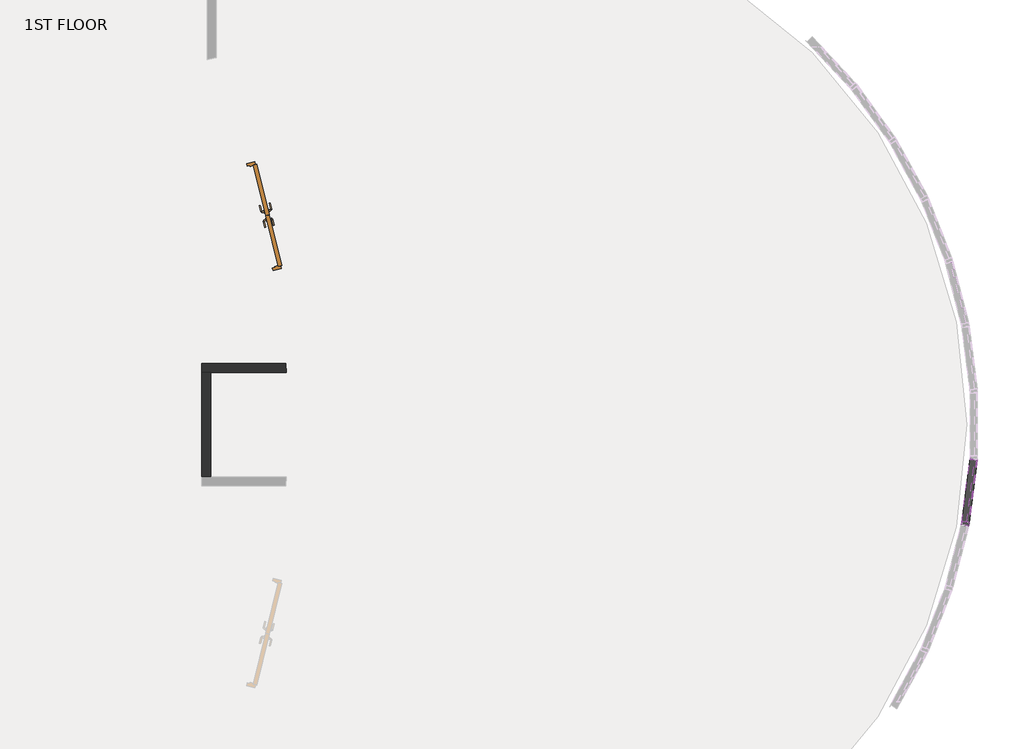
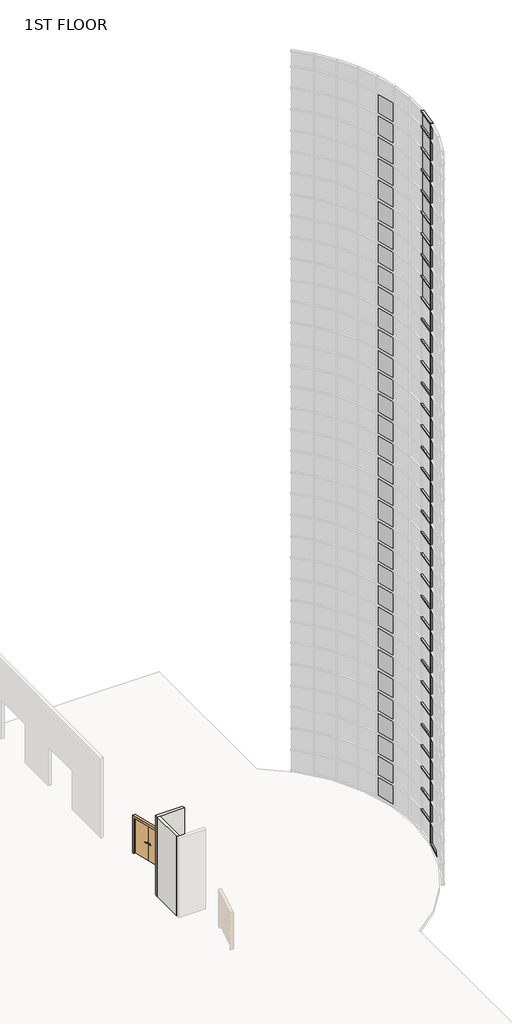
# One storey, part 9 of 17: 69 members, 42 plates, 2 walls, 1 door.
"""IFC4 building model written with IfcOpenShell, lengths in millimetres."""

from ifc_helpers import new_model, si_unit, frame, origin, place, context, project, spatial, polyline, circle_curve, outline, extrude, transform, mapped, element, save
from ifc_brep_helpers import plane_surface, cylinder_surface, advanced_brep
from components import door_2f250f70, member_56cb0dcd, member_0c249660, member_2b49869a, member_410c6227, system_panel_glazed_ce2914f7, system_panel_glazed_e049e42f, system_panel_glazed_5ae89cf9

model = new_model("IFC4")

# Units and contexts
model_context = context("Model", 3, world=origin())
ifc_project = project(units=[si_unit("LENGTHUNIT", "METRE", prefix="MILLI")], contexts=[model_context])

# Site, building, storey
site = spatial("IfcSite", under=ifc_project)
building = spatial("IfcBuilding", under=site)
storey = spatial("IfcBuildingStorey", under=building, Name="1ST FLOOR", Elevation=4572.0)

# Door
placement = place(None, origin())
door_shape = door_2f250f70(model_context)
element("IfcDoor", 1, ObjectType="Door-Passage-Double-Flush : 72\" x 82\"", at=placement, inside=storey, context=model_context, shape_type="MappedRepresentation", body=[
    mapped(door_shape, transform((35885.2621514, 20561.4429091, 4572.0), x_axis=(0.23975975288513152, -0.9708322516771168, 0.0), y_axis=(0.9708322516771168, 0.23975975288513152, 0.0), z_axis=(0.0, 0.0, 1.0))),
])

# Members
member_shape = member_56cb0dcd(model_context)
element("IfcMember", 2, ObjectType="Rectangular Mullion : 2.5\" x 5\" rectangular", at=placement, inside=storey, context=model_context, shape_type="MappedRepresentation", body=[
    mapped(member_shape, transform((48114.9355412, 15218.1342011, 45720.0), x_axis=(0.0, 0.0, 1.0), y_axis=(-0.9922024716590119, 0.12463649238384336, 0.0), z_axis=(-0.12463649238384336, -0.9922024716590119, 0.0))),
])
element("IfcMember", 3, ObjectType="Rectangular Mullion : 2.5\" x 5\" rectangular", at=placement, inside=storey, context=model_context, shape_type="MappedRepresentation", body=[
    mapped(member_shape, transform((48103.1256282, 15155.8681978, 4572.0), x_axis=(0.0, 0.0, -1.0), y_axis=(-0.9689314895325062, 0.24732927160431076, 0.0), z_axis=(0.24732927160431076, 0.9689314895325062, 0.0))),
])
member_2_shape = member_0c249660(model_context)
element("IfcMember", 4, ObjectType="Rectangular Mullion : 2.5\" x 5\" rectangular", at=placement, inside=storey, context=model_context, shape_type="MappedRepresentation", body=[
    mapped(member_2_shape, transform((48114.9355412, 15218.1342011, 5791.2), x_axis=(0.0, 0.0, 1.0), y_axis=(-0.9922024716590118, 0.12463649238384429, 0.0), z_axis=(-0.12463649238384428, -0.9922024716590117, 0.0))),
])
element("IfcMember", 5, ObjectType="Rectangular Mullion : 2.5\" x 5\" rectangular", at=placement, inside=storey, context=model_context, shape_type="MappedRepresentation", body=[
    mapped(member_2_shape, transform((48114.9355412, 15218.1342011, 7010.4), x_axis=(0.0, 0.0, 1.0), y_axis=(-0.9922024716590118, 0.12463649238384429, 0.0), z_axis=(-0.12463649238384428, -0.9922024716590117, 0.0))),
])
element("IfcMember", 6, ObjectType="Rectangular Mullion : 2.5\" x 5\" rectangular", at=placement, inside=storey, context=model_context, shape_type="MappedRepresentation", body=[
    mapped(member_2_shape, transform((48114.9355412, 15218.1342011, 8229.6), x_axis=(0.0, 0.0, 1.0), y_axis=(-0.9922024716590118, 0.12463649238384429, 0.0), z_axis=(-0.12463649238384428, -0.9922024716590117, 0.0))),
])
element("IfcMember", 7, ObjectType="Rectangular Mullion : 2.5\" x 5\" rectangular", at=placement, inside=storey, context=model_context, shape_type="MappedRepresentation", body=[
    mapped(member_2_shape, transform((48114.9355412, 15218.1342011, 9448.8), x_axis=(0.0, 0.0, 1.0), y_axis=(-0.9922024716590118, 0.12463649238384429, 0.0), z_axis=(-0.12463649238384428, -0.9922024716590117, 0.0))),
])
element("IfcMember", 8, ObjectType="Rectangular Mullion : 2.5\" x 5\" rectangular", at=placement, inside=storey, context=model_context, shape_type="MappedRepresentation", body=[
    mapped(member_2_shape, transform((48114.9355412, 15218.1342011, 10668.0), x_axis=(0.0, 0.0, 1.0), y_axis=(-0.9922024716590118, 0.12463649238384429, 0.0), z_axis=(-0.12463649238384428, -0.9922024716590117, 0.0))),
])
element("IfcMember", 9, ObjectType="Rectangular Mullion : 2.5\" x 5\" rectangular", at=placement, inside=storey, context=model_context, shape_type="MappedRepresentation", body=[
    mapped(member_2_shape, transform((48114.9355412, 15218.1342011, 11887.2), x_axis=(0.0, 0.0, 1.0), y_axis=(-0.9922024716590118, 0.12463649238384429, 0.0), z_axis=(-0.12463649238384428, -0.9922024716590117, 0.0))),
])
element("IfcMember", 10, ObjectType="Rectangular Mullion : 2.5\" x 5\" rectangular", at=placement, inside=storey, context=model_context, shape_type="MappedRepresentation", body=[
    mapped(member_2_shape, transform((48114.9355412, 15218.1342011, 13106.4), x_axis=(0.0, 0.0, 1.0), y_axis=(-0.9922024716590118, 0.12463649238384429, 0.0), z_axis=(-0.12463649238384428, -0.9922024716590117, 0.0))),
])
element("IfcMember", 11, ObjectType="Rectangular Mullion : 2.5\" x 5\" rectangular", at=placement, inside=storey, context=model_context, shape_type="MappedRepresentation", body=[
    mapped(member_2_shape, transform((48114.9355412, 15218.1342011, 14325.6), x_axis=(0.0, 0.0, 1.0), y_axis=(-0.9922024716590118, 0.12463649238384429, 0.0), z_axis=(-0.12463649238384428, -0.9922024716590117, 0.0))),
])
element("IfcMember", 12, ObjectType="Rectangular Mullion : 2.5\" x 5\" rectangular", at=placement, inside=storey, context=model_context, shape_type="MappedRepresentation", body=[
    mapped(member_2_shape, transform((48114.9355412, 15218.1342011, 15544.8), x_axis=(0.0, 0.0, 1.0), y_axis=(-0.9922024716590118, 0.12463649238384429, 0.0), z_axis=(-0.12463649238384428, -0.9922024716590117, 0.0))),
])
element("IfcMember", 13, ObjectType="Rectangular Mullion : 2.5\" x 5\" rectangular", at=placement, inside=storey, context=model_context, shape_type="MappedRepresentation", body=[
    mapped(member_2_shape, transform((48114.9355412, 15218.1342011, 16764.0), x_axis=(0.0, 0.0, 1.0), y_axis=(-0.9922024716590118, 0.12463649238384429, 0.0), z_axis=(-0.12463649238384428, -0.9922024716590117, 0.0))),
])
element("IfcMember", 14, ObjectType="Rectangular Mullion : 2.5\" x 5\" rectangular", at=placement, inside=storey, context=model_context, shape_type="MappedRepresentation", body=[
    mapped(member_2_shape, transform((48114.9355412, 15218.1342011, 17983.2), x_axis=(0.0, 0.0, 1.0), y_axis=(-0.9922024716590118, 0.12463649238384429, 0.0), z_axis=(-0.12463649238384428, -0.9922024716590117, 0.0))),
])
element("IfcMember", 15, ObjectType="Rectangular Mullion : 2.5\" x 5\" rectangular", at=placement, inside=storey, context=model_context, shape_type="MappedRepresentation", body=[
    mapped(member_2_shape, transform((48114.9355412, 15218.1342011, 19202.4), x_axis=(0.0, 0.0, 1.0), y_axis=(-0.9922024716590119, 0.12463649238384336, 0.0), z_axis=(-0.12463649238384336, -0.9922024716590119, 0.0))),
])
element("IfcMember", 16, ObjectType="Rectangular Mullion : 2.5\" x 5\" rectangular", at=placement, inside=storey, context=model_context, shape_type="MappedRepresentation", body=[
    mapped(member_2_shape, transform((48114.9355412, 15218.1342011, 20421.6), x_axis=(0.0, 0.0, 1.0), y_axis=(-0.9922024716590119, 0.12463649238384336, 0.0), z_axis=(-0.12463649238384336, -0.9922024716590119, 0.0))),
])
element("IfcMember", 17, ObjectType="Rectangular Mullion : 2.5\" x 5\" rectangular", at=placement, inside=storey, context=model_context, shape_type="MappedRepresentation", body=[
    mapped(member_2_shape, transform((48114.9355412, 15218.1342011, 21640.8), x_axis=(0.0, 0.0, 1.0), y_axis=(-0.9922024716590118, 0.12463649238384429, 0.0), z_axis=(-0.12463649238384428, -0.9922024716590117, 0.0))),
])
element("IfcMember", 18, ObjectType="Rectangular Mullion : 2.5\" x 5\" rectangular", at=placement, inside=storey, context=model_context, shape_type="MappedRepresentation", body=[
    mapped(member_2_shape, transform((48114.9355412, 15218.1342011, 22860.0), x_axis=(0.0, 0.0, 1.0), y_axis=(-0.9922024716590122, 0.12463649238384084, 0.0), z_axis=(-0.12463649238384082, -0.9922024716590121, 0.0))),
])
element("IfcMember", 19, ObjectType="Rectangular Mullion : 2.5\" x 5\" rectangular", at=placement, inside=storey, context=model_context, shape_type="MappedRepresentation", body=[
    mapped(member_2_shape, transform((48114.9355412, 15218.1342011, 24079.2), x_axis=(0.0, 0.0, 1.0), y_axis=(-0.9922024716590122, 0.12463649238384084, 0.0), z_axis=(-0.12463649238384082, -0.9922024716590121, 0.0))),
])
element("IfcMember", 20, ObjectType="Rectangular Mullion : 2.5\" x 5\" rectangular", at=placement, inside=storey, context=model_context, shape_type="MappedRepresentation", body=[
    mapped(member_2_shape, transform((48114.9355412, 15218.1342011, 25298.4), x_axis=(0.0, 0.0, 1.0), y_axis=(-0.9922024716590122, 0.12463649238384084, 0.0), z_axis=(-0.12463649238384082, -0.9922024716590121, 0.0))),
])
element("IfcMember", 21, ObjectType="Rectangular Mullion : 2.5\" x 5\" rectangular", at=placement, inside=storey, context=model_context, shape_type="MappedRepresentation", body=[
    mapped(member_2_shape, transform((48114.9355412, 15218.1342011, 26517.6), x_axis=(0.0, 0.0, 1.0), y_axis=(-0.9922024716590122, 0.12463649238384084, 0.0), z_axis=(-0.12463649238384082, -0.9922024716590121, 0.0))),
])
element("IfcMember", 22, ObjectType="Rectangular Mullion : 2.5\" x 5\" rectangular", at=placement, inside=storey, context=model_context, shape_type="MappedRepresentation", body=[
    mapped(member_2_shape, transform((48114.9355412, 15218.1342011, 27736.8), x_axis=(0.0, 0.0, 1.0), y_axis=(-0.9922024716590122, 0.12463649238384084, 0.0), z_axis=(-0.12463649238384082, -0.9922024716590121, 0.0))),
])
element("IfcMember", 23, ObjectType="Rectangular Mullion : 2.5\" x 5\" rectangular", at=placement, inside=storey, context=model_context, shape_type="MappedRepresentation", body=[
    mapped(member_2_shape, transform((48114.9355412, 15218.1342011, 28956.0), x_axis=(0.0, 0.0, 1.0), y_axis=(-0.9922024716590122, 0.12463649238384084, 0.0), z_axis=(-0.12463649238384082, -0.9922024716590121, 0.0))),
])
element("IfcMember", 24, ObjectType="Rectangular Mullion : 2.5\" x 5\" rectangular", at=placement, inside=storey, context=model_context, shape_type="MappedRepresentation", body=[
    mapped(member_2_shape, transform((48114.9355412, 15218.1342011, 30175.2), x_axis=(0.0, 0.0, 1.0), y_axis=(-0.9922024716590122, 0.12463649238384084, 0.0), z_axis=(-0.12463649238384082, -0.9922024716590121, 0.0))),
])
element("IfcMember", 25, ObjectType="Rectangular Mullion : 2.5\" x 5\" rectangular", at=placement, inside=storey, context=model_context, shape_type="MappedRepresentation", body=[
    mapped(member_2_shape, transform((48114.9355412, 15218.1342011, 31394.4), x_axis=(0.0, 0.0, 1.0), y_axis=(-0.9922024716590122, 0.12463649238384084, 0.0), z_axis=(-0.12463649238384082, -0.9922024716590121, 0.0))),
])
element("IfcMember", 26, ObjectType="Rectangular Mullion : 2.5\" x 5\" rectangular", at=placement, inside=storey, context=model_context, shape_type="MappedRepresentation", body=[
    mapped(member_2_shape, transform((48114.9355412, 15218.1342011, 32613.6), x_axis=(0.0, 0.0, 1.0), y_axis=(-0.9922024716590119, 0.12463649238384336, 0.0), z_axis=(-0.12463649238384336, -0.9922024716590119, 0.0))),
])
element("IfcMember", 27, ObjectType="Rectangular Mullion : 2.5\" x 5\" rectangular", at=placement, inside=storey, context=model_context, shape_type="MappedRepresentation", body=[
    mapped(member_2_shape, transform((48114.9355412, 15218.1342011, 33832.8), x_axis=(0.0, 0.0, 1.0), y_axis=(-0.9922024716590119, 0.12463649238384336, 0.0), z_axis=(-0.12463649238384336, -0.9922024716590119, 0.0))),
])
element("IfcMember", 28, ObjectType="Rectangular Mullion : 2.5\" x 5\" rectangular", at=placement, inside=storey, context=model_context, shape_type="MappedRepresentation", body=[
    mapped(member_2_shape, transform((48114.9355412, 15218.1342011, 35052.0), x_axis=(0.0, 0.0, 1.0), y_axis=(-0.9922024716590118, 0.12463649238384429, 0.0), z_axis=(-0.12463649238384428, -0.9922024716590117, 0.0))),
])
element("IfcMember", 29, ObjectType="Rectangular Mullion : 2.5\" x 5\" rectangular", at=placement, inside=storey, context=model_context, shape_type="MappedRepresentation", body=[
    mapped(member_2_shape, transform((48114.9355412, 15218.1342011, 36271.2), x_axis=(0.0, 0.0, 1.0), y_axis=(-0.9922024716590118, 0.12463649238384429, 0.0), z_axis=(-0.12463649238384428, -0.9922024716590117, 0.0))),
])
element("IfcMember", 30, ObjectType="Rectangular Mullion : 2.5\" x 5\" rectangular", at=placement, inside=storey, context=model_context, shape_type="MappedRepresentation", body=[
    mapped(member_2_shape, transform((48114.9355412, 15218.1342011, 37490.4), x_axis=(0.0, 0.0, 1.0), y_axis=(-0.9922024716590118, 0.12463649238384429, 0.0), z_axis=(-0.12463649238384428, -0.9922024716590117, 0.0))),
])
element("IfcMember", 31, ObjectType="Rectangular Mullion : 2.5\" x 5\" rectangular", at=placement, inside=storey, context=model_context, shape_type="MappedRepresentation", body=[
    mapped(member_2_shape, transform((48114.9355412, 15218.1342011, 38709.6), x_axis=(0.0, 0.0, 1.0), y_axis=(-0.9922024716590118, 0.12463649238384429, 0.0), z_axis=(-0.12463649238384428, -0.9922024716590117, 0.0))),
])
element("IfcMember", 32, ObjectType="Rectangular Mullion : 2.5\" x 5\" rectangular", at=placement, inside=storey, context=model_context, shape_type="MappedRepresentation", body=[
    mapped(member_2_shape, transform((48114.9355412, 15218.1342011, 39928.8), x_axis=(0.0, 0.0, 1.0), y_axis=(-0.9922024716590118, 0.12463649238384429, 0.0), z_axis=(-0.12463649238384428, -0.9922024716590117, 0.0))),
])
element("IfcMember", 33, ObjectType="Rectangular Mullion : 2.5\" x 5\" rectangular", at=placement, inside=storey, context=model_context, shape_type="MappedRepresentation", body=[
    mapped(member_2_shape, transform((48114.9355412, 15218.1342011, 41148.0), x_axis=(0.0, 0.0, 1.0), y_axis=(-0.9922024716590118, 0.12463649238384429, 0.0), z_axis=(-0.12463649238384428, -0.9922024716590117, 0.0))),
])
element("IfcMember", 34, ObjectType="Rectangular Mullion : 2.5\" x 5\" rectangular", at=placement, inside=storey, context=model_context, shape_type="MappedRepresentation", body=[
    mapped(member_2_shape, transform((48114.9355412, 15218.1342011, 42367.2), x_axis=(0.0, 0.0, 1.0), y_axis=(-0.9922024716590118, 0.12463649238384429, 0.0), z_axis=(-0.12463649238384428, -0.9922024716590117, 0.0))),
])
element("IfcMember", 35, ObjectType="Rectangular Mullion : 2.5\" x 5\" rectangular", at=placement, inside=storey, context=model_context, shape_type="MappedRepresentation", body=[
    mapped(member_2_shape, transform((48114.9355412, 15218.1342011, 43586.4), x_axis=(0.0, 0.0, 1.0), y_axis=(-0.9922024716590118, 0.12463649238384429, 0.0), z_axis=(-0.12463649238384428, -0.9922024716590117, 0.0))),
])
element("IfcMember", 36, ObjectType="Rectangular Mullion : 2.5\" x 5\" rectangular", at=placement, inside=storey, context=model_context, shape_type="MappedRepresentation", body=[
    mapped(member_2_shape, transform((48114.9355412, 15218.1342011, 44805.6), x_axis=(0.0, 0.0, 1.0), y_axis=(-0.9922024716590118, 0.12463649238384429, 0.0), z_axis=(-0.12463649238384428, -0.9922024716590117, 0.0))),
])
member_3_shape = member_2b49869a(model_context)
element("IfcMember", 37, ObjectType="Rectangular Mullion : 2.5\" x 5\" rectangular", at=placement, inside=storey, context=model_context, shape_type="MappedRepresentation", body=[
    mapped(member_3_shape, transform((48110.9783326, 15186.6317726, 4572.0), x_axis=(-0.1863464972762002, -0.982484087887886, 0.0), y_axis=(-0.982484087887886, 0.1863464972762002, 0.0), z_axis=(0.0, 0.0, -1.0))),
])
element("IfcMember", 38, ObjectType="Rectangular Mullion : 2.5\" x 5\" rectangular", at=placement, inside=storey, context=model_context, shape_type="MappedRepresentation", body=[
    mapped(member_3_shape, transform((48110.9783326, 15186.6317726, 5791.2), x_axis=(-0.18634649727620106, -0.9824840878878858, 0.0), y_axis=(-0.9824840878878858, 0.18634649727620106, 0.0), z_axis=(0.0, 0.0, -1.0))),
])
element("IfcMember", 39, ObjectType="Rectangular Mullion : 2.5\" x 5\" rectangular", at=placement, inside=storey, context=model_context, shape_type="MappedRepresentation", body=[
    mapped(member_3_shape, transform((48110.9783326, 15186.6317726, 7010.4), x_axis=(-0.18634649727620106, -0.9824840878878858, 0.0), y_axis=(-0.9824840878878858, 0.18634649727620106, 0.0), z_axis=(0.0, 0.0, -1.0))),
])
element("IfcMember", 40, ObjectType="Rectangular Mullion : 2.5\" x 5\" rectangular", at=placement, inside=storey, context=model_context, shape_type="MappedRepresentation", body=[
    mapped(member_3_shape, transform((48110.9783326, 15186.6317726, 8229.6), x_axis=(-0.18634649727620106, -0.9824840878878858, 0.0), y_axis=(-0.9824840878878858, 0.18634649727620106, 0.0), z_axis=(0.0, 0.0, -1.0))),
])
element("IfcMember", 41, ObjectType="Rectangular Mullion : 2.5\" x 5\" rectangular", at=placement, inside=storey, context=model_context, shape_type="MappedRepresentation", body=[
    mapped(member_3_shape, transform((48110.9783326, 15186.6317726, 9448.8), x_axis=(-0.1863464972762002, -0.982484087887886, 0.0), y_axis=(-0.982484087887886, 0.1863464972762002, 0.0), z_axis=(0.0, 0.0, -1.0))),
])
element("IfcMember", 42, ObjectType="Rectangular Mullion : 2.5\" x 5\" rectangular", at=placement, inside=storey, context=model_context, shape_type="MappedRepresentation", body=[
    mapped(member_3_shape, transform((48110.9783326, 15186.6317726, 10668.0), x_axis=(-0.1863464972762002, -0.982484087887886, 0.0), y_axis=(-0.982484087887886, 0.1863464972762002, 0.0), z_axis=(0.0, 0.0, -1.0))),
])
element("IfcMember", 43, ObjectType="Rectangular Mullion : 2.5\" x 5\" rectangular", at=placement, inside=storey, context=model_context, shape_type="MappedRepresentation", body=[
    mapped(member_3_shape, transform((48110.9783326, 15186.6317726, 11887.2), x_axis=(-0.18634649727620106, -0.9824840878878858, 0.0), y_axis=(-0.9824840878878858, 0.18634649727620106, 0.0), z_axis=(0.0, 0.0, -1.0))),
])
element("IfcMember", 44, ObjectType="Rectangular Mullion : 2.5\" x 5\" rectangular", at=placement, inside=storey, context=model_context, shape_type="MappedRepresentation", body=[
    mapped(member_3_shape, transform((48110.9783326, 15186.6317726, 13106.4), x_axis=(-0.18634649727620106, -0.9824840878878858, 0.0), y_axis=(-0.9824840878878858, 0.18634649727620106, 0.0), z_axis=(0.0, 0.0, -1.0))),
])
element("IfcMember", 45, ObjectType="Rectangular Mullion : 2.5\" x 5\" rectangular", at=placement, inside=storey, context=model_context, shape_type="MappedRepresentation", body=[
    mapped(member_3_shape, transform((48110.9783326, 15186.6317726, 14325.6), x_axis=(-0.18634649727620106, -0.9824840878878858, 0.0), y_axis=(-0.9824840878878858, 0.18634649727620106, 0.0), z_axis=(0.0, 0.0, -1.0))),
])
element("IfcMember", 46, ObjectType="Rectangular Mullion : 2.5\" x 5\" rectangular", at=placement, inside=storey, context=model_context, shape_type="MappedRepresentation", body=[
    mapped(member_3_shape, transform((48110.9783326, 15186.6317726, 15544.8), x_axis=(-0.18634649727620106, -0.9824840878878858, 0.0), y_axis=(-0.9824840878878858, 0.18634649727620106, 0.0), z_axis=(0.0, 0.0, -1.0))),
])
element("IfcMember", 47, ObjectType="Rectangular Mullion : 2.5\" x 5\" rectangular", at=placement, inside=storey, context=model_context, shape_type="MappedRepresentation", body=[
    mapped(member_3_shape, transform((48110.9783326, 15186.6317726, 16764.0), x_axis=(-0.18634649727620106, -0.9824840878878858, 0.0), y_axis=(-0.9824840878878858, 0.18634649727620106, 0.0), z_axis=(0.0, 0.0, -1.0))),
])
element("IfcMember", 48, ObjectType="Rectangular Mullion : 2.5\" x 5\" rectangular", at=placement, inside=storey, context=model_context, shape_type="MappedRepresentation", body=[
    mapped(member_3_shape, transform((48110.9783326, 15186.6317726, 17983.2), x_axis=(-0.18634649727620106, -0.9824840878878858, 0.0), y_axis=(-0.9824840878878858, 0.18634649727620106, 0.0), z_axis=(0.0, 0.0, -1.0))),
])
element("IfcMember", 49, ObjectType="Rectangular Mullion : 2.5\" x 5\" rectangular", at=placement, inside=storey, context=model_context, shape_type="MappedRepresentation", body=[
    mapped(member_3_shape, transform((48110.9783326, 15186.6317726, 19202.4), x_axis=(-0.1863464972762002, -0.982484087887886, 0.0), y_axis=(-0.982484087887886, 0.1863464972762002, 0.0), z_axis=(0.0, 0.0, -1.0))),
])
element("IfcMember", 50, ObjectType="Rectangular Mullion : 2.5\" x 5\" rectangular", at=placement, inside=storey, context=model_context, shape_type="MappedRepresentation", body=[
    mapped(member_3_shape, transform((48110.9783326, 15186.6317726, 20421.6), x_axis=(-0.1863464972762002, -0.982484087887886, 0.0), y_axis=(-0.982484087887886, 0.1863464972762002, 0.0), z_axis=(0.0, 0.0, -1.0))),
])
element("IfcMember", 51, ObjectType="Rectangular Mullion : 2.5\" x 5\" rectangular", at=placement, inside=storey, context=model_context, shape_type="MappedRepresentation", body=[
    mapped(member_3_shape, transform((48110.9783326, 15186.6317726, 21640.8), x_axis=(-0.18634649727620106, -0.9824840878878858, 0.0), y_axis=(-0.9824840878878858, 0.18634649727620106, 0.0), z_axis=(0.0, 0.0, -1.0))),
])
element("IfcMember", 52, ObjectType="Rectangular Mullion : 2.5\" x 5\" rectangular", at=placement, inside=storey, context=model_context, shape_type="MappedRepresentation", body=[
    mapped(member_3_shape, transform((48110.9783326, 15186.6317726, 22860.0), x_axis=(-0.18634649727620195, -0.9824840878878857, 0.0), y_axis=(-0.9824840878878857, 0.18634649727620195, 0.0), z_axis=(0.0, 0.0, -1.0))),
])
element("IfcMember", 53, ObjectType="Rectangular Mullion : 2.5\" x 5\" rectangular", at=placement, inside=storey, context=model_context, shape_type="MappedRepresentation", body=[
    mapped(member_3_shape, transform((48110.9783326, 15186.6317726, 24079.2), x_axis=(-0.18634649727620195, -0.9824840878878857, 0.0), y_axis=(-0.9824840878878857, 0.18634649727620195, 0.0), z_axis=(0.0, 0.0, -1.0))),
])
element("IfcMember", 54, ObjectType="Rectangular Mullion : 2.5\" x 5\" rectangular", at=placement, inside=storey, context=model_context, shape_type="MappedRepresentation", body=[
    mapped(member_3_shape, transform((48110.9783326, 15186.6317726, 25298.4), x_axis=(-0.18634649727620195, -0.9824840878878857, 0.0), y_axis=(-0.9824840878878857, 0.18634649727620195, 0.0), z_axis=(0.0, 0.0, -1.0))),
])
element("IfcMember", 55, ObjectType="Rectangular Mullion : 2.5\" x 5\" rectangular", at=placement, inside=storey, context=model_context, shape_type="MappedRepresentation", body=[
    mapped(member_3_shape, transform((48110.9783326, 15186.6317726, 26517.6), x_axis=(-0.18634649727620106, -0.9824840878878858, 0.0), y_axis=(-0.9824840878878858, 0.18634649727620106, 0.0), z_axis=(0.0, 0.0, -1.0))),
])
element("IfcMember", 56, ObjectType="Rectangular Mullion : 2.5\" x 5\" rectangular", at=placement, inside=storey, context=model_context, shape_type="MappedRepresentation", body=[
    mapped(member_3_shape, transform((48110.9783326, 15186.6317726, 27736.8), x_axis=(-0.18634649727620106, -0.9824840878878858, 0.0), y_axis=(-0.9824840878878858, 0.18634649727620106, 0.0), z_axis=(0.0, 0.0, -1.0))),
])
element("IfcMember", 57, ObjectType="Rectangular Mullion : 2.5\" x 5\" rectangular", at=placement, inside=storey, context=model_context, shape_type="MappedRepresentation", body=[
    mapped(member_3_shape, transform((48110.9783326, 15186.6317726, 28956.0), x_axis=(-0.18634649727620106, -0.9824840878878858, 0.0), y_axis=(-0.9824840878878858, 0.18634649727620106, 0.0), z_axis=(0.0, 0.0, -1.0))),
])
element("IfcMember", 58, ObjectType="Rectangular Mullion : 2.5\" x 5\" rectangular", at=placement, inside=storey, context=model_context, shape_type="MappedRepresentation", body=[
    mapped(member_3_shape, transform((48110.9783326, 15186.6317726, 30175.2), x_axis=(-0.18634649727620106, -0.9824840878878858, 0.0), y_axis=(-0.9824840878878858, 0.18634649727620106, 0.0), z_axis=(0.0, 0.0, -1.0))),
])
element("IfcMember", 59, ObjectType="Rectangular Mullion : 2.5\" x 5\" rectangular", at=placement, inside=storey, context=model_context, shape_type="MappedRepresentation", body=[
    mapped(member_3_shape, transform((48110.9783326, 15186.6317726, 31394.4), x_axis=(-0.18634649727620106, -0.9824840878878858, 0.0), y_axis=(-0.9824840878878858, 0.18634649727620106, 0.0), z_axis=(0.0, 0.0, -1.0))),
])
element("IfcMember", 60, ObjectType="Rectangular Mullion : 2.5\" x 5\" rectangular", at=placement, inside=storey, context=model_context, shape_type="MappedRepresentation", body=[
    mapped(member_3_shape, transform((48110.9783326, 15186.6317726, 32613.6), x_axis=(-0.1863464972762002, -0.982484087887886, 0.0), y_axis=(-0.982484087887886, 0.1863464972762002, 0.0), z_axis=(0.0, 0.0, -1.0))),
])
element("IfcMember", 61, ObjectType="Rectangular Mullion : 2.5\" x 5\" rectangular", at=placement, inside=storey, context=model_context, shape_type="MappedRepresentation", body=[
    mapped(member_3_shape, transform((48110.9783326, 15186.6317726, 33832.8), x_axis=(-0.1863464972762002, -0.982484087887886, 0.0), y_axis=(-0.982484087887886, 0.1863464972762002, 0.0), z_axis=(0.0, 0.0, -1.0))),
])
element("IfcMember", 62, ObjectType="Rectangular Mullion : 2.5\" x 5\" rectangular", at=placement, inside=storey, context=model_context, shape_type="MappedRepresentation", body=[
    mapped(member_3_shape, transform((48110.9783326, 15186.6317726, 35052.0), x_axis=(-0.1863464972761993, -0.9824840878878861, 0.0), y_axis=(-0.9824840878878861, 0.1863464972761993, 0.0), z_axis=(0.0, 0.0, -1.0))),
])
element("IfcMember", 63, ObjectType="Rectangular Mullion : 2.5\" x 5\" rectangular", at=placement, inside=storey, context=model_context, shape_type="MappedRepresentation", body=[
    mapped(member_3_shape, transform((48110.9783326, 15186.6317726, 36271.2), x_axis=(-0.1863464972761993, -0.9824840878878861, 0.0), y_axis=(-0.9824840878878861, 0.1863464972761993, 0.0), z_axis=(0.0, 0.0, -1.0))),
])
element("IfcMember", 64, ObjectType="Rectangular Mullion : 2.5\" x 5\" rectangular", at=placement, inside=storey, context=model_context, shape_type="MappedRepresentation", body=[
    mapped(member_3_shape, transform((48110.9783326, 15186.6317726, 37490.4), x_axis=(-0.1863464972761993, -0.9824840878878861, 0.0), y_axis=(-0.9824840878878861, 0.1863464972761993, 0.0), z_axis=(0.0, 0.0, -1.0))),
])
element("IfcMember", 65, ObjectType="Rectangular Mullion : 2.5\" x 5\" rectangular", at=placement, inside=storey, context=model_context, shape_type="MappedRepresentation", body=[
    mapped(member_3_shape, transform((48110.9783326, 15186.6317726, 38709.6), x_axis=(-0.1863464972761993, -0.9824840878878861, 0.0), y_axis=(-0.9824840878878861, 0.1863464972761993, 0.0), z_axis=(0.0, 0.0, -1.0))),
])
element("IfcMember", 66, ObjectType="Rectangular Mullion : 2.5\" x 5\" rectangular", at=placement, inside=storey, context=model_context, shape_type="MappedRepresentation", body=[
    mapped(member_3_shape, transform((48110.9783326, 15186.6317726, 39928.8), x_axis=(-0.1863464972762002, -0.982484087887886, 0.0), y_axis=(-0.982484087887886, 0.1863464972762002, 0.0), z_axis=(0.0, 0.0, -1.0))),
])
element("IfcMember", 67, ObjectType="Rectangular Mullion : 2.5\" x 5\" rectangular", at=placement, inside=storey, context=model_context, shape_type="MappedRepresentation", body=[
    mapped(member_3_shape, transform((48110.9783326, 15186.6317726, 41148.0), x_axis=(-0.1863464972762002, -0.982484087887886, 0.0), y_axis=(-0.982484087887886, 0.1863464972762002, 0.0), z_axis=(0.0, 0.0, -1.0))),
])
element("IfcMember", 68, ObjectType="Rectangular Mullion : 2.5\" x 5\" rectangular", at=placement, inside=storey, context=model_context, shape_type="MappedRepresentation", body=[
    mapped(member_3_shape, transform((48110.9783326, 15186.6317726, 42367.2), x_axis=(-0.1863464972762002, -0.982484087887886, 0.0), y_axis=(-0.982484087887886, 0.1863464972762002, 0.0), z_axis=(0.0, 0.0, -1.0))),
])
element("IfcMember", 69, ObjectType="Rectangular Mullion : 2.5\" x 5\" rectangular", at=placement, inside=storey, context=model_context, shape_type="MappedRepresentation", body=[
    mapped(member_3_shape, transform((48110.9783326, 15186.6317726, 43586.4), x_axis=(-0.1863464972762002, -0.982484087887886, 0.0), y_axis=(-0.982484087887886, 0.1863464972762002, 0.0), z_axis=(0.0, 0.0, -1.0))),
])
member_4_shape = member_410c6227(model_context)
element("IfcMember", 70, ObjectType="Rectangular Mullion : 2.5\" x 5\" rectangular", at=placement, inside=storey, context=model_context, shape_type="MappedRepresentation", body=[
    mapped(member_4_shape, transform((48110.9783326, 15186.6317726, 44805.6), x_axis=(-0.1863464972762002, -0.982484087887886, 0.0), y_axis=(-0.982484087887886, 0.1863464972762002, 0.0), z_axis=(0.0, 0.0, -1.0))),
])

# Plates
system_panel_glazed_shape = system_panel_glazed_ce2914f7(model_context)
element("IfcPlate", 71, ObjectType="System Panel : Glazed", at=placement, inside=storey, context=model_context, shape_type="MappedRepresentation", body=[
    mapped(system_panel_glazed_shape, transform((47967.3625719, 19215.1440421, 4635.5), x_axis=(0.24732927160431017, -0.9689314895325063, 0.0), y_axis=(0.9689314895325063, 0.24732927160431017, 0.0), z_axis=(0.0, 0.0, 1.0))),
])
system_panel_glazed_2_shape = system_panel_glazed_e049e42f(model_context)
element("IfcPlate", 72, ObjectType="System Panel : Glazed", at=placement, inside=storey, context=model_context, shape_type="MappedRepresentation", body=[
    mapped(system_panel_glazed_2_shape, transform((47967.3625719, 19215.1440421, 5822.95), x_axis=(0.24732927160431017, -0.9689314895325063, 0.0), y_axis=(0.9689314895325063, 0.24732927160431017, 0.0), z_axis=(0.0, 0.0, 1.0))),
])
element("IfcPlate", 73, ObjectType="System Panel : Glazed", at=placement, inside=storey, context=model_context, shape_type="MappedRepresentation", body=[
    mapped(system_panel_glazed_2_shape, transform((47967.3625719, 19215.1440421, 7042.15), x_axis=(0.24732927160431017, -0.9689314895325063, 0.0), y_axis=(0.9689314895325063, 0.24732927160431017, 0.0), z_axis=(0.0, 0.0, 1.0))),
])
element("IfcPlate", 74, ObjectType="System Panel : Glazed", at=placement, inside=storey, context=model_context, shape_type="MappedRepresentation", body=[
    mapped(system_panel_glazed_2_shape, transform((47967.3625719, 19215.1440421, 8261.35), x_axis=(0.24732927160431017, -0.9689314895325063, 0.0), y_axis=(0.9689314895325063, 0.24732927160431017, 0.0), z_axis=(0.0, 0.0, 1.0))),
])
element("IfcPlate", 75, ObjectType="System Panel : Glazed", at=placement, inside=storey, context=model_context, shape_type="MappedRepresentation", body=[
    mapped(system_panel_glazed_2_shape, transform((47967.3625719, 19215.1440421, 9480.55), x_axis=(0.24732927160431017, -0.9689314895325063, 0.0), y_axis=(0.9689314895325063, 0.24732927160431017, 0.0), z_axis=(0.0, 0.0, 1.0))),
])
element("IfcPlate", 76, ObjectType="System Panel : Glazed", at=placement, inside=storey, context=model_context, shape_type="MappedRepresentation", body=[
    mapped(system_panel_glazed_2_shape, transform((47967.3625719, 19215.1440421, 10699.75), x_axis=(0.24732927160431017, -0.9689314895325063, 0.0), y_axis=(0.9689314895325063, 0.24732927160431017, 0.0), z_axis=(0.0, 0.0, 1.0))),
])
element("IfcPlate", 77, ObjectType="System Panel : Glazed", at=placement, inside=storey, context=model_context, shape_type="MappedRepresentation", body=[
    mapped(system_panel_glazed_2_shape, transform((47967.3625719, 19215.1440421, 11918.95), x_axis=(0.24732927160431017, -0.9689314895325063, 0.0), y_axis=(0.9689314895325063, 0.24732927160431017, 0.0), z_axis=(0.0, 0.0, 1.0))),
])
element("IfcPlate", 78, ObjectType="System Panel : Glazed", at=placement, inside=storey, context=model_context, shape_type="MappedRepresentation", body=[
    mapped(system_panel_glazed_2_shape, transform((47967.3625719, 19215.1440421, 13138.15), x_axis=(0.24732927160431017, -0.9689314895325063, 0.0), y_axis=(0.9689314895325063, 0.24732927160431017, 0.0), z_axis=(0.0, 0.0, 1.0))),
])
element("IfcPlate", 79, ObjectType="System Panel : Glazed", at=placement, inside=storey, context=model_context, shape_type="MappedRepresentation", body=[
    mapped(system_panel_glazed_2_shape, transform((47967.3625719, 19215.1440421, 14357.35), x_axis=(0.24732927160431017, -0.9689314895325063, 0.0), y_axis=(0.9689314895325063, 0.24732927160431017, 0.0), z_axis=(0.0, 0.0, 1.0))),
])
element("IfcPlate", 80, ObjectType="System Panel : Glazed", at=placement, inside=storey, context=model_context, shape_type="MappedRepresentation", body=[
    mapped(system_panel_glazed_2_shape, transform((47967.3625719, 19215.1440421, 15576.55), x_axis=(0.24732927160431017, -0.9689314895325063, 0.0), y_axis=(0.9689314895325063, 0.24732927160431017, 0.0), z_axis=(0.0, 0.0, 1.0))),
])
element("IfcPlate", 81, ObjectType="System Panel : Glazed", at=placement, inside=storey, context=model_context, shape_type="MappedRepresentation", body=[
    mapped(system_panel_glazed_2_shape, transform((47967.3625719, 19215.1440421, 16795.75), x_axis=(0.24732927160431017, -0.9689314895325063, 0.0), y_axis=(0.9689314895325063, 0.24732927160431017, 0.0), z_axis=(0.0, 0.0, 1.0))),
])
element("IfcPlate", 82, ObjectType="System Panel : Glazed", at=placement, inside=storey, context=model_context, shape_type="MappedRepresentation", body=[
    mapped(system_panel_glazed_2_shape, transform((47967.3625719, 19215.1440421, 18014.95), x_axis=(0.24732927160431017, -0.9689314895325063, 0.0), y_axis=(0.9689314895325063, 0.24732927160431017, 0.0), z_axis=(0.0, 0.0, 1.0))),
])
element("IfcPlate", 83, ObjectType="System Panel : Glazed", at=placement, inside=storey, context=model_context, shape_type="MappedRepresentation", body=[
    mapped(system_panel_glazed_2_shape, transform((47967.3625719, 19215.1440421, 19234.15), x_axis=(0.24732927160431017, -0.9689314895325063, 0.0), y_axis=(0.9689314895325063, 0.24732927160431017, 0.0), z_axis=(0.0, 0.0, 1.0))),
])
element("IfcPlate", 84, ObjectType="System Panel : Glazed", at=placement, inside=storey, context=model_context, shape_type="MappedRepresentation", body=[
    mapped(system_panel_glazed_2_shape, transform((47967.3625719, 19215.1440421, 20453.35), x_axis=(0.24732927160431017, -0.9689314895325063, 0.0), y_axis=(0.9689314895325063, 0.24732927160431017, 0.0), z_axis=(0.0, 0.0, 1.0))),
])
element("IfcPlate", 85, ObjectType="System Panel : Glazed", at=placement, inside=storey, context=model_context, shape_type="MappedRepresentation", body=[
    mapped(system_panel_glazed_2_shape, transform((47967.3625719, 19215.1440421, 21672.55), x_axis=(0.24732927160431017, -0.9689314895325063, 0.0), y_axis=(0.9689314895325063, 0.24732927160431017, 0.0), z_axis=(0.0, 0.0, 1.0))),
])
element("IfcPlate", 86, ObjectType="System Panel : Glazed", at=placement, inside=storey, context=model_context, shape_type="MappedRepresentation", body=[
    mapped(system_panel_glazed_2_shape, transform((47967.3625719, 19215.1440421, 22891.75), x_axis=(0.24732927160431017, -0.9689314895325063, 0.0), y_axis=(0.9689314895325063, 0.24732927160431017, 0.0), z_axis=(0.0, 0.0, 1.0))),
])
element("IfcPlate", 87, ObjectType="System Panel : Glazed", at=placement, inside=storey, context=model_context, shape_type="MappedRepresentation", body=[
    mapped(system_panel_glazed_2_shape, transform((47967.3625719, 19215.1440421, 24110.95), x_axis=(0.24732927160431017, -0.9689314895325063, 0.0), y_axis=(0.9689314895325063, 0.24732927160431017, 0.0), z_axis=(0.0, 0.0, 1.0))),
])
element("IfcPlate", 88, ObjectType="System Panel : Glazed", at=placement, inside=storey, context=model_context, shape_type="MappedRepresentation", body=[
    mapped(system_panel_glazed_2_shape, transform((47967.3625719, 19215.1440421, 25330.15), x_axis=(0.24732927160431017, -0.9689314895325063, 0.0), y_axis=(0.9689314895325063, 0.24732927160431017, 0.0), z_axis=(0.0, 0.0, 1.0))),
])
element("IfcPlate", 89, ObjectType="System Panel : Glazed", at=placement, inside=storey, context=model_context, shape_type="MappedRepresentation", body=[
    mapped(system_panel_glazed_2_shape, transform((47967.3625719, 19215.1440421, 26549.35), x_axis=(0.24732927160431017, -0.9689314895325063, 0.0), y_axis=(0.9689314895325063, 0.24732927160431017, 0.0), z_axis=(0.0, 0.0, 1.0))),
])
element("IfcPlate", 90, ObjectType="System Panel : Glazed", at=placement, inside=storey, context=model_context, shape_type="MappedRepresentation", body=[
    mapped(system_panel_glazed_2_shape, transform((47967.3625719, 19215.1440421, 27768.55), x_axis=(0.24732927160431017, -0.9689314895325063, 0.0), y_axis=(0.9689314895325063, 0.24732927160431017, 0.0), z_axis=(0.0, 0.0, 1.0))),
])
element("IfcPlate", 91, ObjectType="System Panel : Glazed", at=placement, inside=storey, context=model_context, shape_type="MappedRepresentation", body=[
    mapped(system_panel_glazed_2_shape, transform((47967.3625719, 19215.1440421, 28987.75), x_axis=(0.24732927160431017, -0.9689314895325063, 0.0), y_axis=(0.9689314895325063, 0.24732927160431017, 0.0), z_axis=(0.0, 0.0, 1.0))),
])
element("IfcPlate", 92, ObjectType="System Panel : Glazed", at=placement, inside=storey, context=model_context, shape_type="MappedRepresentation", body=[
    mapped(system_panel_glazed_2_shape, transform((47967.3625719, 19215.1440421, 30206.95), x_axis=(0.24732927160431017, -0.9689314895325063, 0.0), y_axis=(0.9689314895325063, 0.24732927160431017, 0.0), z_axis=(0.0, 0.0, 1.0))),
])
element("IfcPlate", 93, ObjectType="System Panel : Glazed", at=placement, inside=storey, context=model_context, shape_type="MappedRepresentation", body=[
    mapped(system_panel_glazed_2_shape, transform((47967.3625719, 19215.1440421, 31426.15), x_axis=(0.24732927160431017, -0.9689314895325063, 0.0), y_axis=(0.9689314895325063, 0.24732927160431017, 0.0), z_axis=(0.0, 0.0, 1.0))),
])
element("IfcPlate", 94, ObjectType="System Panel : Glazed", at=placement, inside=storey, context=model_context, shape_type="MappedRepresentation", body=[
    mapped(system_panel_glazed_2_shape, transform((47967.3625719, 19215.1440421, 32645.35), x_axis=(0.24732927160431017, -0.9689314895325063, 0.0), y_axis=(0.9689314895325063, 0.24732927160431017, 0.0), z_axis=(0.0, 0.0, 1.0))),
])
element("IfcPlate", 95, ObjectType="System Panel : Glazed", at=placement, inside=storey, context=model_context, shape_type="MappedRepresentation", body=[
    mapped(system_panel_glazed_2_shape, transform((47967.3625719, 19215.1440421, 33864.55), x_axis=(0.24732927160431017, -0.9689314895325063, 0.0), y_axis=(0.9689314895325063, 0.24732927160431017, 0.0), z_axis=(0.0, 0.0, 1.0))),
])
element("IfcPlate", 96, ObjectType="System Panel : Glazed", at=placement, inside=storey, context=model_context, shape_type="MappedRepresentation", body=[
    mapped(system_panel_glazed_2_shape, transform((47967.3625719, 19215.1440421, 35083.75), x_axis=(0.24732927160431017, -0.9689314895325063, 0.0), y_axis=(0.9689314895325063, 0.24732927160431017, 0.0), z_axis=(0.0, 0.0, 1.0))),
])
element("IfcPlate", 97, ObjectType="System Panel : Glazed", at=placement, inside=storey, context=model_context, shape_type="MappedRepresentation", body=[
    mapped(system_panel_glazed_2_shape, transform((48183.3505373, 15762.7702612, 35083.75), x_axis=(-0.12463649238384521, -0.9922024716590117, 0.0), y_axis=(0.9922024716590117, -0.12463649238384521, 0.0), z_axis=(0.0, 0.0, 1.0))),
])
element("IfcPlate", 98, ObjectType="System Panel : Glazed", at=placement, inside=storey, context=model_context, shape_type="MappedRepresentation", body=[
    mapped(system_panel_glazed_2_shape, transform((47967.3625719, 19215.1440421, 36302.95), x_axis=(0.24732927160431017, -0.9689314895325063, 0.0), y_axis=(0.9689314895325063, 0.24732927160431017, 0.0), z_axis=(0.0, 0.0, 1.0))),
])
element("IfcPlate", 99, ObjectType="System Panel : Glazed", at=placement, inside=storey, context=model_context, shape_type="MappedRepresentation", body=[
    mapped(system_panel_glazed_2_shape, transform((48183.3505373, 15762.7702612, 36302.95), x_axis=(-0.12463649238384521, -0.9922024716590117, 0.0), y_axis=(0.9922024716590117, -0.12463649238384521, 0.0), z_axis=(0.0, 0.0, 1.0))),
])
element("IfcPlate", 100, ObjectType="System Panel : Glazed", at=placement, inside=storey, context=model_context, shape_type="MappedRepresentation", body=[
    mapped(system_panel_glazed_2_shape, transform((47967.3625719, 19215.1440421, 37522.15), x_axis=(0.24732927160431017, -0.9689314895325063, 0.0), y_axis=(0.9689314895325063, 0.24732927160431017, 0.0), z_axis=(0.0, 0.0, 1.0))),
])
element("IfcPlate", 101, ObjectType="System Panel : Glazed", at=placement, inside=storey, context=model_context, shape_type="MappedRepresentation", body=[
    mapped(system_panel_glazed_2_shape, transform((48183.3505373, 15762.7702612, 37522.15), x_axis=(-0.12463649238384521, -0.9922024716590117, 0.0), y_axis=(0.9922024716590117, -0.12463649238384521, 0.0), z_axis=(0.0, 0.0, 1.0))),
])
element("IfcPlate", 102, ObjectType="System Panel : Glazed", at=placement, inside=storey, context=model_context, shape_type="MappedRepresentation", body=[
    mapped(system_panel_glazed_2_shape, transform((47967.3625719, 19215.1440421, 38741.35), x_axis=(0.24732927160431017, -0.9689314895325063, 0.0), y_axis=(0.9689314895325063, 0.24732927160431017, 0.0), z_axis=(0.0, 0.0, 1.0))),
])
element("IfcPlate", 103, ObjectType="System Panel : Glazed", at=placement, inside=storey, context=model_context, shape_type="MappedRepresentation", body=[
    mapped(system_panel_glazed_2_shape, transform((48183.3505373, 15762.7702612, 38741.35), x_axis=(-0.12463649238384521, -0.9922024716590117, 0.0), y_axis=(0.9922024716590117, -0.12463649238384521, 0.0), z_axis=(0.0, 0.0, 1.0))),
])
element("IfcPlate", 104, ObjectType="System Panel : Glazed", at=placement, inside=storey, context=model_context, shape_type="MappedRepresentation", body=[
    mapped(system_panel_glazed_2_shape, transform((47967.3625719, 19215.1440421, 39960.55), x_axis=(0.24732927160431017, -0.9689314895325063, 0.0), y_axis=(0.9689314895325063, 0.24732927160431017, 0.0), z_axis=(0.0, 0.0, 1.0))),
])
element("IfcPlate", 105, ObjectType="System Panel : Glazed", at=placement, inside=storey, context=model_context, shape_type="MappedRepresentation", body=[
    mapped(system_panel_glazed_2_shape, transform((48183.3505373, 15762.7702612, 39960.55), x_axis=(-0.12463649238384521, -0.9922024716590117, 0.0), y_axis=(0.9922024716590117, -0.12463649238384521, 0.0), z_axis=(0.0, 0.0, 1.0))),
])
element("IfcPlate", 106, ObjectType="System Panel : Glazed", at=placement, inside=storey, context=model_context, shape_type="MappedRepresentation", body=[
    mapped(system_panel_glazed_2_shape, transform((47967.3625719, 19215.1440421, 41179.75), x_axis=(0.24732927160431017, -0.9689314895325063, 0.0), y_axis=(0.9689314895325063, 0.24732927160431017, 0.0), z_axis=(0.0, 0.0, 1.0))),
])
element("IfcPlate", 107, ObjectType="System Panel : Glazed", at=placement, inside=storey, context=model_context, shape_type="MappedRepresentation", body=[
    mapped(system_panel_glazed_2_shape, transform((48183.3505373, 15762.7702612, 41179.75), x_axis=(-0.12463649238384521, -0.9922024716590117, 0.0), y_axis=(0.9922024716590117, -0.12463649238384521, 0.0), z_axis=(0.0, 0.0, 1.0))),
])
element("IfcPlate", 108, ObjectType="System Panel : Glazed", at=placement, inside=storey, context=model_context, shape_type="MappedRepresentation", body=[
    mapped(system_panel_glazed_2_shape, transform((47967.3625719, 19215.1440421, 42398.95), x_axis=(0.24732927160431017, -0.9689314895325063, 0.0), y_axis=(0.9689314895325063, 0.24732927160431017, 0.0), z_axis=(0.0, 0.0, 1.0))),
])
element("IfcPlate", 109, ObjectType="System Panel : Glazed", at=placement, inside=storey, context=model_context, shape_type="MappedRepresentation", body=[
    mapped(system_panel_glazed_2_shape, transform((48183.3505373, 15762.7702612, 42398.95), x_axis=(-0.12463649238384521, -0.9922024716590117, 0.0), y_axis=(0.9922024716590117, -0.12463649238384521, 0.0), z_axis=(0.0, 0.0, 1.0))),
])
element("IfcPlate", 110, ObjectType="System Panel : Glazed", at=placement, inside=storey, context=model_context, shape_type="MappedRepresentation", body=[
    mapped(system_panel_glazed_2_shape, transform((47967.3625719, 19215.1440421, 43618.15), x_axis=(0.24732927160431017, -0.9689314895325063, 0.0), y_axis=(0.9689314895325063, 0.24732927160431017, 0.0), z_axis=(0.0, 0.0, 1.0))),
])
element("IfcPlate", 111, ObjectType="System Panel : Glazed", at=placement, inside=storey, context=model_context, shape_type="MappedRepresentation", body=[
    mapped(system_panel_glazed_2_shape, transform((48183.3505373, 15762.7702612, 43618.15), x_axis=(-0.12463649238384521, -0.9922024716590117, 0.0), y_axis=(0.9922024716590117, -0.12463649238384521, 0.0), z_axis=(0.0, 0.0, 1.0))),
])
system_panel_glazed_3_shape = system_panel_glazed_5ae89cf9(model_context)
element("IfcPlate", 112, ObjectType="System Panel : Glazed", at=placement, inside=storey, context=model_context, shape_type="MappedRepresentation", body=[
    mapped(system_panel_glazed_3_shape, transform((48183.3505373, 15762.7702612, 44837.35), x_axis=(-0.12463649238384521, -0.9922024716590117, 0.0), y_axis=(0.9922024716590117, -0.12463649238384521, 0.0), z_axis=(0.0, 0.0, 1.0))),
])

# Walls
element("IfcWall", 113, ObjectType="SYR_INT_TWO_HOUR", at=placement, inside=storey, context=model_context, shape_type="AdvancedBrep", body=[
    advanced_brep(
    [(34783.7261452, 17830.8, 4572.0), (34939.3011452, 17830.8, 4572.0), (36260.4137436, 17830.8, 4572.0), (36260.4137436, 17830.8, 9144.0), (34939.3011452, 17830.8, 9144.0), (34783.7261452, 17830.8, 9144.0), (34783.7261452, 17986.375, 4572.0), (34783.7261452, 17986.375, 9144.0), (36250.2111967, 17986.375, 9144.0), (36250.2111967, 17986.375, 4572.0)],
    [
        (0, 1),
        (1, 2),
        (2, 3),
        (3, 4),
        (4, 5),
        (5, 0),
        (6, 7),
        (7, 8),
        (8, 9),
        (9, 6),
        (0, 6),
        (9, 2, circle_curve(frame((21125.7990959, 16916.4, 4572.0), z_axis=(0.0, 0.0, -1.0), x_axis=(1.0, 0.0, 0.0)), 15162.2125)),
        (3, 8, circle_curve(frame((21125.7990959, 16916.4, 9144.0), z_axis=(0.0, 0.0, 1.0), x_axis=(1.0, 0.0, 0.0)), 15162.2125)),
        (7, 5),
    ],
    [
        plane_surface(frame((34892.5990959, 17830.8, 4572.0), z_axis=(0.0, -1.0, 0.0), x_axis=(1.0, 0.0, 0.0))),
        plane_surface(frame((34892.5990959, 17986.375, 4572.0), z_axis=(0.0, 1.0, 0.0), x_axis=(-1.0, 0.0, 0.0))),
        plane_surface(frame((34861.5136452, 17830.8, 4572.0), z_axis=(0.0, 0.0, -1.0), x_axis=(0.0, 1.0, 0.0))),
        plane_surface(frame((36333.467029, 17830.8, 9144.0), z_axis=(0.0, 0.0, 1.0), x_axis=(0.0, 1.0, 0.0))),
        cylinder_surface(frame((21125.7990959, 16916.4, 4572.0), z_axis=(0.0, 0.0, -1.0), x_axis=(1.0, 0.0, 0.0)), 15162.2125),
        plane_surface(frame((34783.7261452, 17087.0102762, 4572.0), z_axis=(-1.0, 0.0, 0.0), x_axis=(0.0, -1.0, 0.0))),
    ],
    [
        (0, [[1, 2, 3, 4, 5, 6]]),
        (1, [[7, 8, 9, 10]]),
        (2, [[-2, -1, 11, -10, 12]]),
        (3, [[-5, -4, 13, -8, 14]]),
        (4, [[-3, -12, -9, -13]]),
        (5, [[-6, -14, -7, -11]]),
    ],
),
])
element("IfcWall", 114, ObjectType="SYR_INT_TWO_HOUR", at=placement, inside=storey, context=model_context, shape_type="SweptSolid", body=[
    extrude(outline(polyline([(34939.3011452, 17830.8), (34939.3011452, 16002.0), (34783.7261452, 16002.0), (34783.7261452, 17830.8), (34939.3011452, 17830.8)])), frame((0.0, 0.0, 4572.0), z_axis=(0.0, 0.0, 1.0), x_axis=(1.0, 0.0, 0.0)), (0.0, 0.0, 1.0), 4572.0),
])

save(model, "model.ifc")
